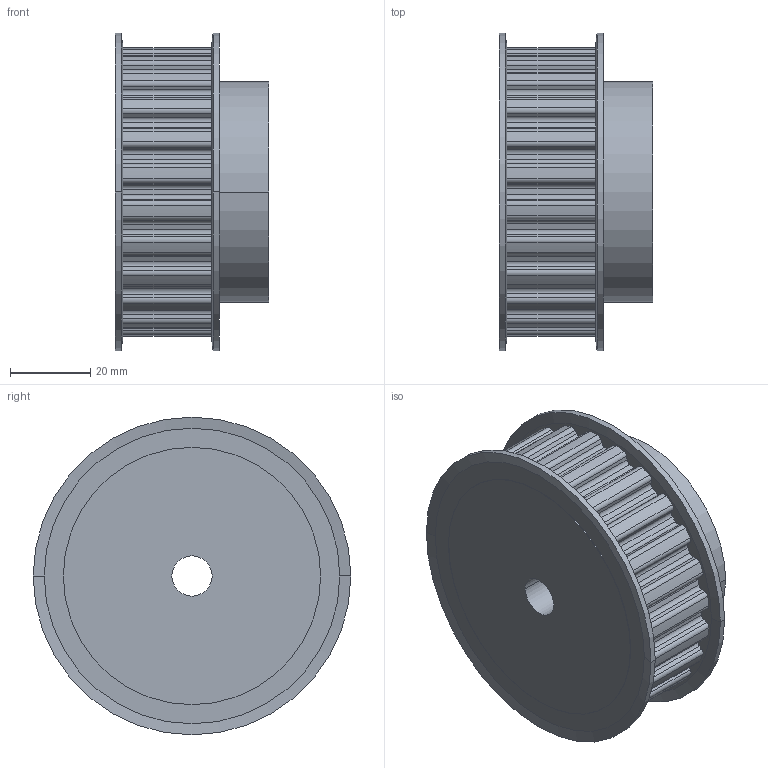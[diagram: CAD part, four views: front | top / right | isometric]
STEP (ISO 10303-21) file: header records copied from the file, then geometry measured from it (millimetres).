
FILE_DESCRIPTION( ( '' ), '1' );
FILE_NAME( 'C:/Users/Stangenbergd/Documents/CAD_Step/1/18222400.stp', '2021-10-19T10:37:36', ( '' ), ( '' ), ' ', ' ', ' ' );
FILE_SCHEMA( ( 'CONFIG_CONTROL_DESIGN' ) );
Length unit declared in the file: millimetre
Products named in the file (1): 1
Bounding box: 38.24 x 79 x 79 mm (x, y, z)
Volume: 126952 mm3; surface area: 22435.7 mm2
Topology: 1 solids, 1 shells, 219 faces, 628 edges, 416 vertices
Faces by surface type: cylinder 132, plane 79, cone 8
Entity records: 7318 total; most frequent: DIRECTION 1340, CARTESIAN_POINT 1264, ORIENTED_EDGE 1256, EDGE_CURVE 628, AXIS2_PLACEMENT_3D 492, VERTEX_POINT 416, LINE 356, VECTOR 356
